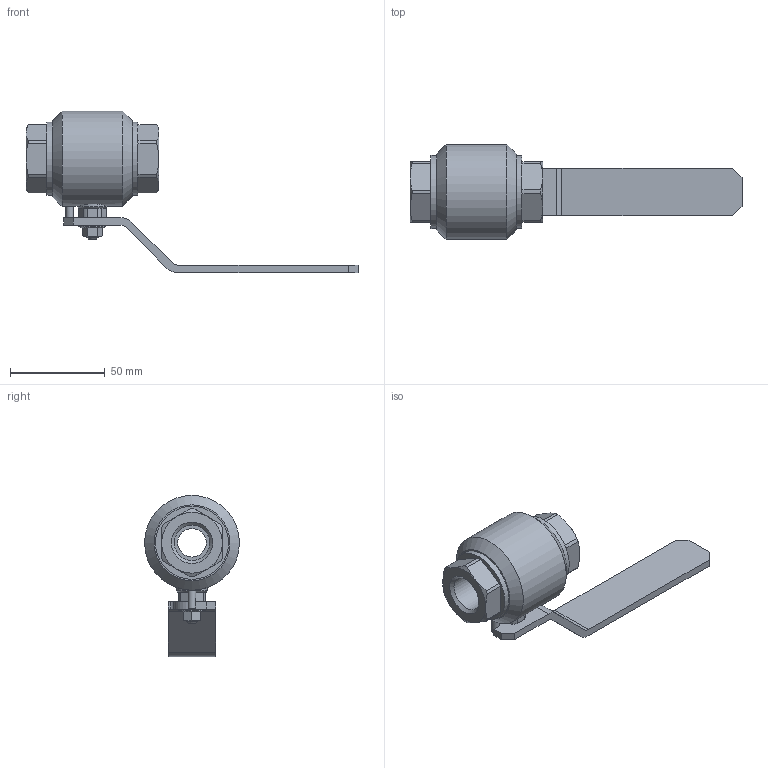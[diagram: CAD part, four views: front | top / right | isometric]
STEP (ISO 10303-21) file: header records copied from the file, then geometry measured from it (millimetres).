
FILE_DESCRIPTION(('STEP AP203'), '1');
FILE_NAME('ZARDP 015.080.10.P.stp', '2013-12-05T09:17:41', ('Øèøêî'), ('Ýíåðïðåä ßðäîñ'), 'ASCON STEP Converter 1.3', 'Kompas 3D', '');
FILE_SCHEMA(('CONFIG_CONTROL_DESIGN','SUPPORT_RESOURCE_SCHEMA'));
Length unit declared in the file: millimetre
Products named in the file (1): 91
Bounding box: 175 x 50 x 85 mm (x, y, z)
Volume: 96140.1 mm3; surface area: 29011.4 mm2
Topology: 1 solids, 3 shells, 175 faces, 416 edges, 256 vertices
Faces by surface type: plane 96, cylinder 46, cone 32, bspline 1
Full cylindrical faces by diameter (mm): 4 x2, 6 x2, 8.673 x1, 9 x1, 10 x1, 10.1 x1, 14.2 x1, 15 x2, 15.8 x1, 16 x3, 18.631 x2, 31.4 x1, 38.5 x2, 50 x1
Entity records: 6737 total; most frequent: CARTESIAN_POINT 2568, DIRECTION 873, ORIENTED_EDGE 830, EDGE_CURVE 415, AXIS2_PLACEMENT_3D 330, VERTEX_POINT 256, LINE 213, VECTOR 213
